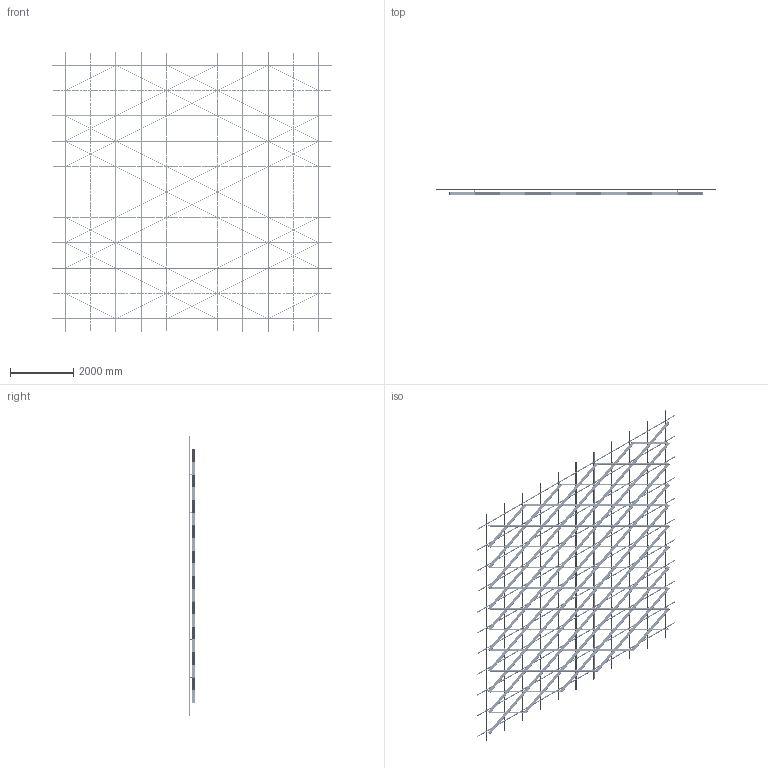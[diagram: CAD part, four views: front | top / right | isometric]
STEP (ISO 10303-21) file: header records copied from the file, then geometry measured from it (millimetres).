
FILE_DESCRIPTION (( 'STEP AP203' ), '1' );
FILE_NAME ('2 ìèäè ñ ïñ.step', '2025-11-26T11:23:20', ( '' ), ( '' ), 'SwSTEP 2.0', 'SolidWorks 2020', '' );
FILE_SCHEMA (( 'CONFIG_CONTROL_DESIGN' ));
Length unit declared in the file: millimetre
Products named in the file (5): SS.SEMA.2400 - Ñèìà-ïðîôèëü; Ñèñòåìà â çîíå 8000õ8000; Var2; SS.SEMA.2400 - Ñèìà-ïðîôèëü — îáðåçàí 1600; 2 ìèäè ñ ïñ
Assembly tree (90 placements, depth 3):
  2 ìèäè ñ ïñ
    Ñèñòåìà â çîíå 8000õ8000
      SS.SEMA.2400 - Ñèìà-ïðîôèëü  x66
      SS.SEMA.2400 - Ñèìà-ïðîôèëü — îáðåçàí 1600  x22
    Var2
Bounding box: 8800 x 205 x 8800 mm (x, y, z)
Volume: 160838984.8 mm3; surface area: 66801670.7 mm2
Topology: 752 solids, 752 shells, 19556 faces, 52748 edges, 34696 vertices
Faces by surface type: cylinder 12786, plane 6770
Entity records: 85775 total; most frequent: CARTESIAN_POINT 20298, ORIENTED_EDGE 12344, DIRECTION 12178, EDGE_CURVE 6172, AXIS2_PLACEMENT_3D 5840, VERTEX_POINT 4104, EDGE_LOOP 3562, FACE_OUTER_BOUND 3400
